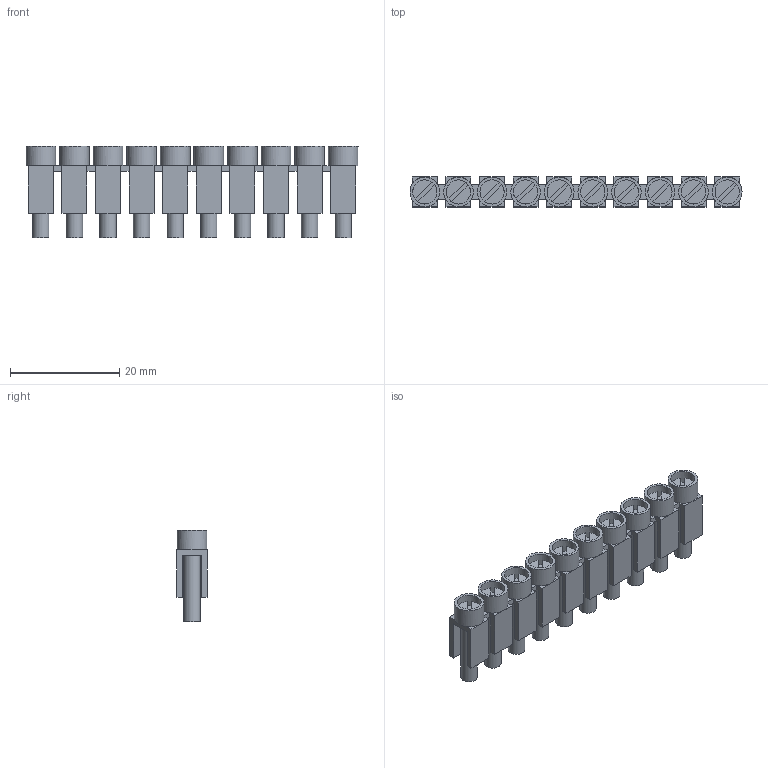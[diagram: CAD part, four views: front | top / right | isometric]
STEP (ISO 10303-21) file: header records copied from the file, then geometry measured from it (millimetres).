
FILE_DESCRIPTION( ('This file contains a STEP AP42 implementation' ,'as created by ZW3D STEP Interface translator.') ,'2;1' );
FILE_NAME( 'FBI 10-6.stp' ,'23 614. 9 136', (''), ('ZWCAD Software Co.'), 'Version 1.0', 'ZW3D to STEP translator', '' );
FILE_SCHEMA(('AUTOMOTIVE_DESIGN { 1 0 10303 214 1 1 1 1 }'));
Length unit declared in the file: millimetre
Products named in the file (2): 0; 0203250001
Bounding box: 60.77 x 5.5 x 16.8 mm (x, y, z)
Volume: 2438.2 mm3; surface area: 4532.2 mm2
Topology: 1 solids, 1 shells, 284 faces, 738 edges, 476 vertices
Faces by surface type: plane 254, cylinder 30
Full cylindrical faces by diameter (mm): 3 x10, 4.425 x10, 5.425 x10
Entity records: 8963 total; most frequent: DIRECTION 1512, CARTESIAN_POINT 1499, ORIENTED_EDGE 1476, EDGE_CURVE 738, VECTOR 534, LINE 534, AXIS2_PLACEMENT_3D 489, VERTEX_POINT 476
